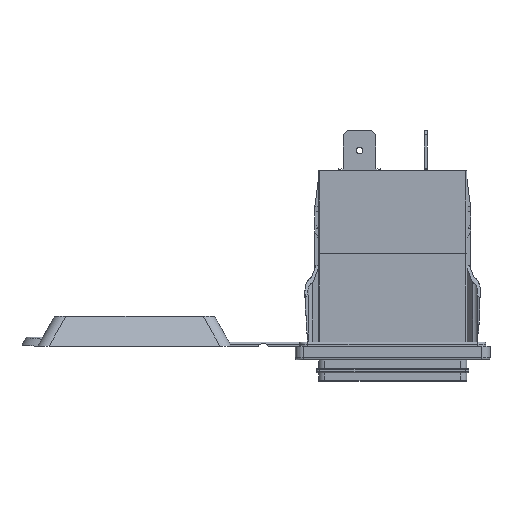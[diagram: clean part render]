
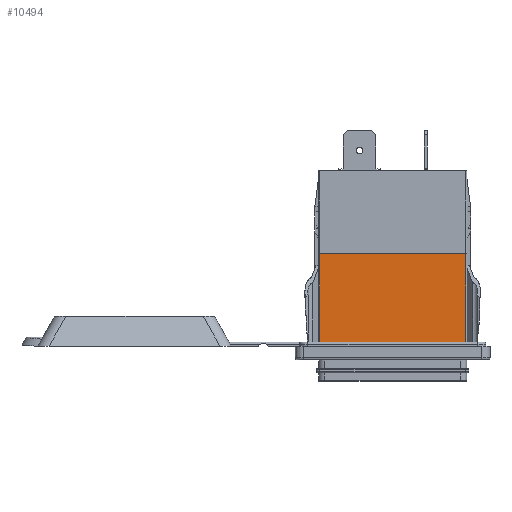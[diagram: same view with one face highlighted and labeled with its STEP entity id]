
A CAD part, front view. The second image highlights one B-rep face of the part: STEP entity #10494.
In plain terms, the highlighted planar face has unit normal (0, -1, 0).
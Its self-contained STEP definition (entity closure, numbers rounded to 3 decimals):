
#239=PLANE('',#11207);
#651=FACE_OUTER_BOUND('',#1247,.T.);
#1247=EDGE_LOOP('',(#7726,#7727,#7728,#7729));
#1851=LINE('',#15373,#3050);
#2036=LINE('',#15797,#3235);
#2043=LINE('',#15812,#3242);
#2045=LINE('',#15815,#3244);
#3050=VECTOR('',#12243,10.);
#3235=VECTOR('',#12620,10.);
#3242=VECTOR('',#12631,10.);
#3244=VECTOR('',#12635,10.);
#4587=VERTEX_POINT('',#15370);
#4588=VERTEX_POINT('',#15372);
#4730=VERTEX_POINT('',#15794);
#4731=VERTEX_POINT('',#15796);
#5639=EDGE_CURVE('',#4588,#4587,#1851,.T.);
#5853=EDGE_CURVE('',#4731,#4730,#2036,.T.);
#5861=EDGE_CURVE('',#4731,#4587,#2043,.T.);
#5863=EDGE_CURVE('',#4588,#4730,#2045,.T.);
#7726=ORIENTED_EDGE('',*,*,#5861,.F.);
#7727=ORIENTED_EDGE('',*,*,#5853,.T.);
#7728=ORIENTED_EDGE('',*,*,#5863,.F.);
#7729=ORIENTED_EDGE('',*,*,#5639,.T.);
#10494=ADVANCED_FACE('',(#651),#239,.T.);
#11207=AXIS2_PLACEMENT_3D('',#15814,#12633,#12634);
#12243=DIRECTION('',(1.,0.,0.));
#12620=DIRECTION('',(-1.,0.,0.));
#12631=DIRECTION('',(0.,0.,-1.));
#12633=DIRECTION('center_axis',(0.,-1.,0.));
#12634=DIRECTION('ref_axis',(1.,0.,0.));
#12635=DIRECTION('',(0.,0.,1.));
#15370=CARTESIAN_POINT('',(35.55,-20.8,1.));
#15372=CARTESIAN_POINT('',(0.25,-20.8,1.));
#15373=CARTESIAN_POINT('',(8.95,-20.8,1.));
#15794=CARTESIAN_POINT('',(0.25,-20.8,22.3));
#15796=CARTESIAN_POINT('',(35.55,-20.8,22.3));
#15797=CARTESIAN_POINT('',(17.9,-20.8,22.3));
#15812=CARTESIAN_POINT('',(35.55,-20.8,0.));
#15814=CARTESIAN_POINT('Origin',(0.,-20.8,0.));
#15815=CARTESIAN_POINT('',(0.25,-20.8,0.));
